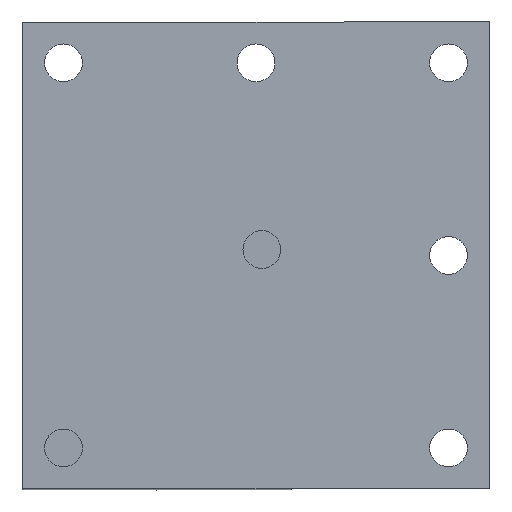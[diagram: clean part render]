
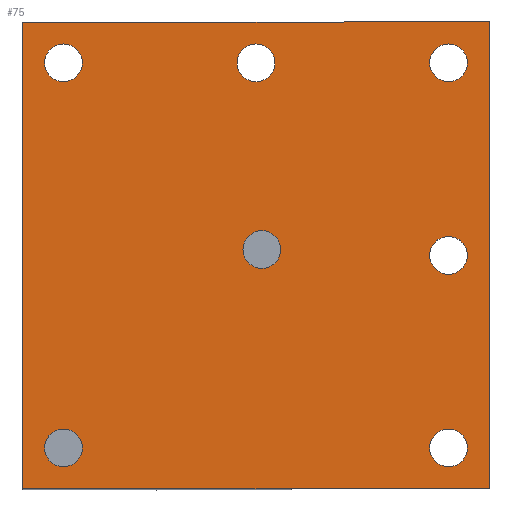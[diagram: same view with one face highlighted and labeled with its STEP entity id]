
A CAD part, top view. The second image highlights one B-rep face of the part: STEP entity #75.
In plain terms, the highlighted planar face has unit normal (0, 0, 1).
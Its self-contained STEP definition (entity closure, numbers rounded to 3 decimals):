
#75 = ADVANCED_FACE( '', ( #157, #158, #159, #160, #161, #162, #163, #164 ), #165, .T. );
#157 = FACE_BOUND( '', #253, .T. );
#158 = FACE_BOUND( '', #254, .T. );
#159 = FACE_OUTER_BOUND( '', #255, .T. );
#160 = FACE_BOUND( '', #256, .T. );
#161 = FACE_BOUND( '', #257, .T. );
#162 = FACE_BOUND( '', #258, .T. );
#163 = FACE_BOUND( '', #259, .T. );
#164 = FACE_BOUND( '', #260, .T. );
#165 = PLANE( '', #261 );
#253 = EDGE_LOOP( '', ( #400 ) );
#254 = EDGE_LOOP( '', ( #401 ) );
#255 = EDGE_LOOP( '', ( #402, #403, #404, #405 ) );
#256 = EDGE_LOOP( '', ( #406 ) );
#257 = EDGE_LOOP( '', ( #407 ) );
#258 = EDGE_LOOP( '', ( #408 ) );
#259 = EDGE_LOOP( '', ( #409 ) );
#260 = EDGE_LOOP( '', ( #410 ) );
#261 = AXIS2_PLACEMENT_3D( '', #411, #412, #413 );
#400 = ORIENTED_EDGE( '', *, *, #523, .F. );
#401 = ORIENTED_EDGE( '', *, *, #507, .F. );
#402 = ORIENTED_EDGE( '', *, *, #485, .T. );
#403 = ORIENTED_EDGE( '', *, *, #502, .T. );
#404 = ORIENTED_EDGE( '', *, *, #524, .T. );
#405 = ORIENTED_EDGE( '', *, *, #525, .T. );
#406 = ORIENTED_EDGE( '', *, *, #482, .F. );
#407 = ORIENTED_EDGE( '', *, *, #526, .F. );
#408 = ORIENTED_EDGE( '', *, *, #499, .F. );
#409 = ORIENTED_EDGE( '', *, *, #527, .F. );
#410 = ORIENTED_EDGE( '', *, *, #477, .F. );
#411 = CARTESIAN_POINT( '', ( 0., 0., 0. ) );
#412 = DIRECTION( '', ( 0., 0., 1. ) );
#413 = DIRECTION( '', ( 1., 0., 0. ) );
#477 = EDGE_CURVE( '', #545, #545, #546, .T. );
#482 = EDGE_CURVE( '', #553, #553, #554, .T. );
#485 = EDGE_CURVE( '', #559, #557, #560, .T. );
#499 = EDGE_CURVE( '', #584, #584, #585, .T. );
#502 = EDGE_CURVE( '', #557, #588, #590, .T. );
#507 = EDGE_CURVE( '', #596, #596, #597, .T. );
#523 = EDGE_CURVE( '', #615, #615, #616, .T. );
#524 = EDGE_CURVE( '', #588, #617, #618, .T. );
#525 = EDGE_CURVE( '', #617, #559, #619, .T. );
#526 = EDGE_CURVE( '', #620, #620, #621, .T. );
#527 = EDGE_CURVE( '', #622, #622, #623, .T. );
#545 = VERTEX_POINT( '', #645 );
#546 = CIRCLE( '', #646, 3.24 );
#553 = VERTEX_POINT( '', #653 );
#554 = CIRCLE( '', #654, 3.24 );
#557 = VERTEX_POINT( '', #657 );
#559 = VERTEX_POINT( '', #660 );
#560 = LINE( '', #661, #662 );
#584 = VERTEX_POINT( '', #696 );
#585 = CIRCLE( '', #697, 3.24 );
#588 = VERTEX_POINT( '', #700 );
#590 = LINE( '', #703, #704 );
#596 = VERTEX_POINT( '', #713 );
#597 = CIRCLE( '', #714, 3.24 );
#615 = VERTEX_POINT( '', #735 );
#616 = CIRCLE( '', #736, 3.24 );
#617 = VERTEX_POINT( '', #737 );
#618 = LINE( '', #738, #739 );
#619 = LINE( '', #740, #741 );
#620 = VERTEX_POINT( '', #742 );
#621 = CIRCLE( '', #743, 3.24 );
#622 = VERTEX_POINT( '', #744 );
#623 = CIRCLE( '', #745, 3.24 );
#645 = CARTESIAN_POINT( '', ( 3.24, 0., 0. ) );
#646 = AXIS2_PLACEMENT_3D( '', #770, #771, #772 );
#653 = CARTESIAN_POINT( '', ( -62.76, 0., 0. ) );
#654 = AXIS2_PLACEMENT_3D( '', #779, #780, #781 );
#657 = CARTESIAN_POINT( '', ( -73., -73., 0. ) );
#660 = CARTESIAN_POINT( '', ( -73., 7., 0. ) );
#661 = CARTESIAN_POINT( '', ( -73., 7., 0. ) );
#662 = VECTOR( '', #783, 1000. );
#696 = CARTESIAN_POINT( '', ( 3.24, -66., 0. ) );
#697 = AXIS2_PLACEMENT_3D( '', #797, #798, #799 );
#700 = CARTESIAN_POINT( '', ( 7., -73., 0. ) );
#703 = CARTESIAN_POINT( '', ( -73., -73., 0. ) );
#704 = VECTOR( '', #801, 1000. );
#713 = CARTESIAN_POINT( '', ( -28.76, -32., 0. ) );
#714 = AXIS2_PLACEMENT_3D( '', #805, #806, #807 );
#735 = CARTESIAN_POINT( '', ( -62.76, -66., 0. ) );
#736 = AXIS2_PLACEMENT_3D( '', #826, #827, #828 );
#737 = CARTESIAN_POINT( '', ( 7., 7., 0. ) );
#738 = CARTESIAN_POINT( '', ( 7., -73., 0. ) );
#739 = VECTOR( '', #829, 1000. );
#740 = CARTESIAN_POINT( '', ( 7., 7., 0. ) );
#741 = VECTOR( '', #830, 1000. );
#742 = CARTESIAN_POINT( '', ( -29.76, 0., 0. ) );
#743 = AXIS2_PLACEMENT_3D( '', #831, #832, #833 );
#744 = CARTESIAN_POINT( '', ( 3.24, -33., 0. ) );
#745 = AXIS2_PLACEMENT_3D( '', #834, #835, #836 );
#770 = CARTESIAN_POINT( '', ( 0., 0., 0. ) );
#771 = DIRECTION( '', ( 0., 0., 1. ) );
#772 = DIRECTION( '', ( 1., 0., 0. ) );
#779 = CARTESIAN_POINT( '', ( -66., 0., 0. ) );
#780 = DIRECTION( '', ( 0., 0., 1. ) );
#781 = DIRECTION( '', ( 1., 0., 0. ) );
#783 = DIRECTION( '', ( 0., -1., 0. ) );
#797 = CARTESIAN_POINT( '', ( 0., -66., 0. ) );
#798 = DIRECTION( '', ( 0., 0., 1. ) );
#799 = DIRECTION( '', ( 1., 0., 0. ) );
#801 = DIRECTION( '', ( 1., 0., 0. ) );
#805 = CARTESIAN_POINT( '', ( -32., -32., 0. ) );
#806 = DIRECTION( '', ( 0., 0., 1. ) );
#807 = DIRECTION( '', ( 1., 0., 0. ) );
#826 = CARTESIAN_POINT( '', ( -66., -66., 0. ) );
#827 = DIRECTION( '', ( 0., 0., 1. ) );
#828 = DIRECTION( '', ( 1., 0., 0. ) );
#829 = DIRECTION( '', ( 0., 1., 0. ) );
#830 = DIRECTION( '', ( -1., 0., 0. ) );
#831 = CARTESIAN_POINT( '', ( -33., 0., 0. ) );
#832 = DIRECTION( '', ( 0., 0., 1. ) );
#833 = DIRECTION( '', ( 1., 0., 0. ) );
#834 = CARTESIAN_POINT( '', ( 0., -33., 0. ) );
#835 = DIRECTION( '', ( 0., 0., 1. ) );
#836 = DIRECTION( '', ( 1., 0., 0. ) );
